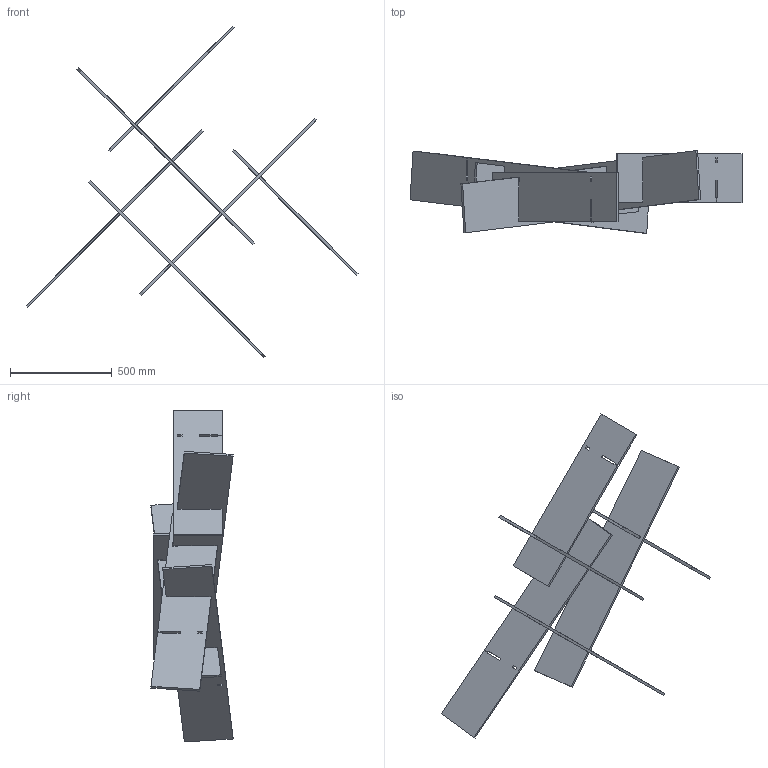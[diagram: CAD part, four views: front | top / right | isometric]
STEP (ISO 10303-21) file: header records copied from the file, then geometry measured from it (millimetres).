
FILE_DESCRIPTION(/* description */ (''),/* implementation_level */ '2;1');
FILE_NAME(/* name */ 'Y:\Design and Engineering\MaterialLogiq\CAD ASSETS\MASTER\GRAFFLE\WEB ASSETS\PET GRAFFLE_4x4_5DEG_SQUARE.stp',/* time_stamp */ '2023-11-01T15:01:06-05:00',/* author */ ('Grant Baker'),/* organization */ (''),/* preprocessor_version */ 'ST-DEVELOPER v19',/* originating_system */ 'Autodesk Inventor 2023',/* authorisation */ '');
FILE_SCHEMA (('AUTOMOTIVE_DESIGN { 1 0 10303 214 3 1 1 }'));
Length unit declared in the file: inch
Products named in the file (4): PET GRAFFLE_4x4_5DEG_SQUARE; PET GRAFFLE_B_4x4_5DEG_SQUARE; PET GRAFFLE_A_4x4_5DEG_SQUARE; PET GRAFFLE_LINK_4x4_5DEG_SQUARE
Assembly tree (6 placements, depth 2):
  PET GRAFFLE_4x4_5DEG_SQUARE
    PET GRAFFLE_B_4x4_5DEG_SQUARE  x2
    PET GRAFFLE_A_4x4_5DEG_SQUARE  x2
    PET GRAFFLE_LINK_4x4_5DEG_SQUARE  x2
Bounding box: 1634.79 x 404.89 x 1634.75 mm (x, y, z)
Volume: 19005976.9 mm3; surface area: 3372660.5 mm2
Topology: 6 solids, 6 shells, 228 faces, 648 edges, 432 vertices
Faces by surface type: plane 228
Entity records: 3831 total; most frequent: CARTESIAN_POINT 664, ORIENTED_EDGE 648, DIRECTION 572, LINE 324, VECTOR 324, EDGE_CURVE 324, VERTEX_POINT 216, EDGE_LOOP 130
